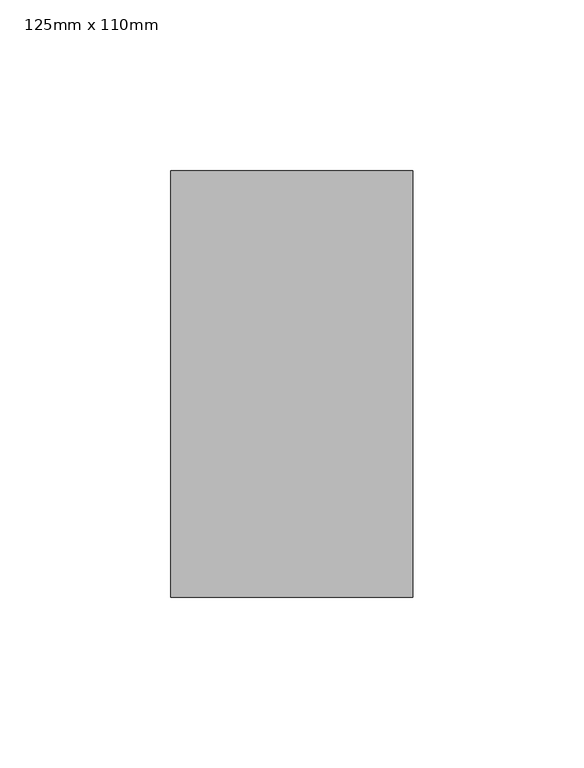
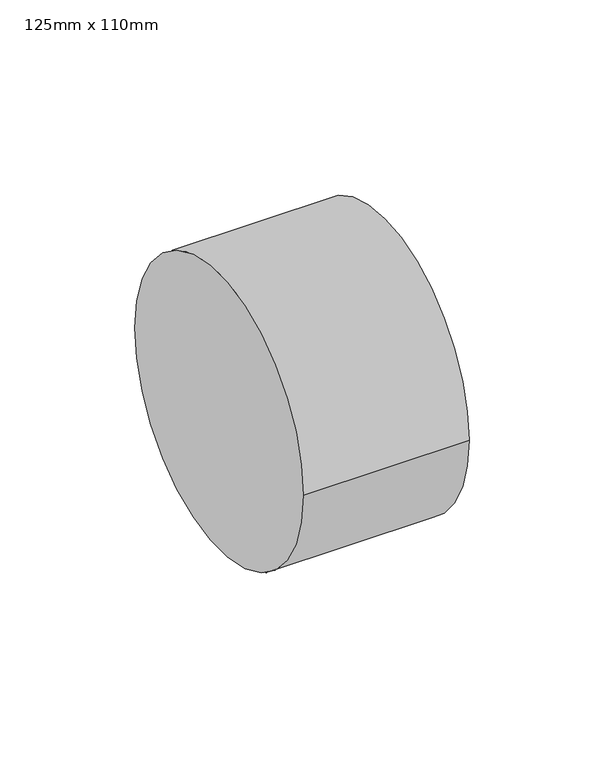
"""IFC4 building model written with IfcOpenShell, lengths in millimetres: pipe fitting geometry, PipeFitting_HTA_CPVC_ReducingBushesShortPattern : 125mm x 110mm."""

from ifc_helpers import new_model, si_unit, point, frame, origin, origin_2d, place, context, project, spatial, circle_curve, trimmed, segment, composite_curve, outline, extrude, source, transform, mapped, element, save


def pipe_fitting_125mm_x_110mm_ad943237(model_context):
    return source(origin(), model_context, "Body", "SweptSolid", [
        extrude(outline(composite_curve([segment(trimmed(circle_curve(origin_2d(), 62.5), [point((-62.5, 0.0))], [point((62.5, 0.0))], False, "CARTESIAN"), True, "CONTINUOUS"), segment(trimmed(circle_curve(origin_2d(), 62.5), [point((62.5, 0.0))], [point((-62.5, 0.0))], False, "CARTESIAN"), True, "CONTINUOUS")], self_intersect=False)), frame((-35.5, 0.0, 0.0), z_axis=(1.0, 0.0, 0.0), x_axis=(0.0, 1.0, 0.0)), (0.0, 0.0, 1.0), 71.0),
    ])


if __name__ == "__main__":
    model = new_model("IFC4")
    model_context = context("Model", 3, world=origin())
    ifc_project = project(units=[si_unit("LENGTHUNIT", "METRE", prefix="MILLI")], contexts=[model_context])
    site = spatial("IfcSite", under=ifc_project)
    building = spatial("IfcBuilding", under=site)
    placement = place(None, origin())
    pipe_fitting_125mm_x_110mm_shape = pipe_fitting_125mm_x_110mm_ad943237(model_context)
    element("IfcPipeFitting", 1, ObjectType="PipeFitting_HTA_CPVC_ReducingBushesShortPattern : 125mm x 110mm", at=placement, inside=building, context=model_context, shape_type="MappedRepresentation", body=[
        mapped(pipe_fitting_125mm_x_110mm_shape, transform((0.0, 0.0, 0.0), x_axis=(1.0, 0.0, 0.0), y_axis=(0.0, 1.0, 0.0), z_axis=(0.0, 0.0, 1.0))),
    ])
    save(model, "model.ifc")
